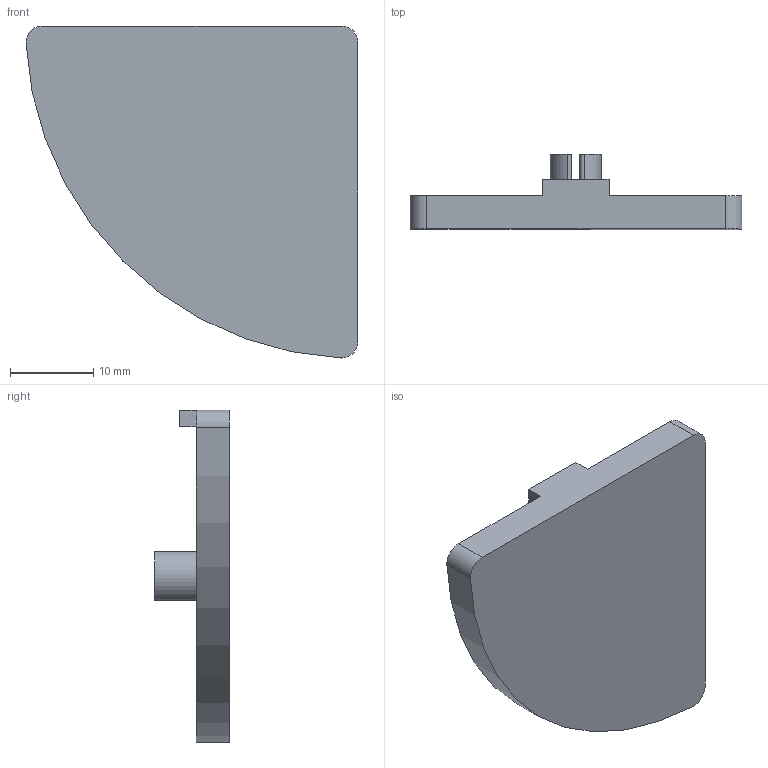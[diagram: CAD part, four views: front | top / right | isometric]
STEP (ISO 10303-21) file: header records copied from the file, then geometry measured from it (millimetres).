
FILE_DESCRIPTION (( 'STEP AP214' ), '1' );
FILE_NAME ('4013.STEP', '2017-08-10T06:18:36', ( '' ), ( '' ), 'SwSTEP 2.0', 'SolidWorks 2014', '' );
FILE_SCHEMA (( 'AUTOMOTIVE_DESIGN' ));
Length unit declared in the file: millimetre
Products named in the file (2): 4013
Bounding box: 39.94 x 9 x 39.95 mm (x, y, z)
Volume: 3245.8 mm3; surface area: 3573.3 mm2
Topology: 1 solids, 1 shells, 40 faces, 108 edges, 72 vertices
Faces by surface type: cylinder 24, plane 16
Entity records: 1329 total; most frequent: DIRECTION 240, CARTESIAN_POINT 222, ORIENTED_EDGE 216, EDGE_CURVE 108, AXIS2_PLACEMENT_3D 90, VERTEX_POINT 72, LINE 60, VECTOR 60
